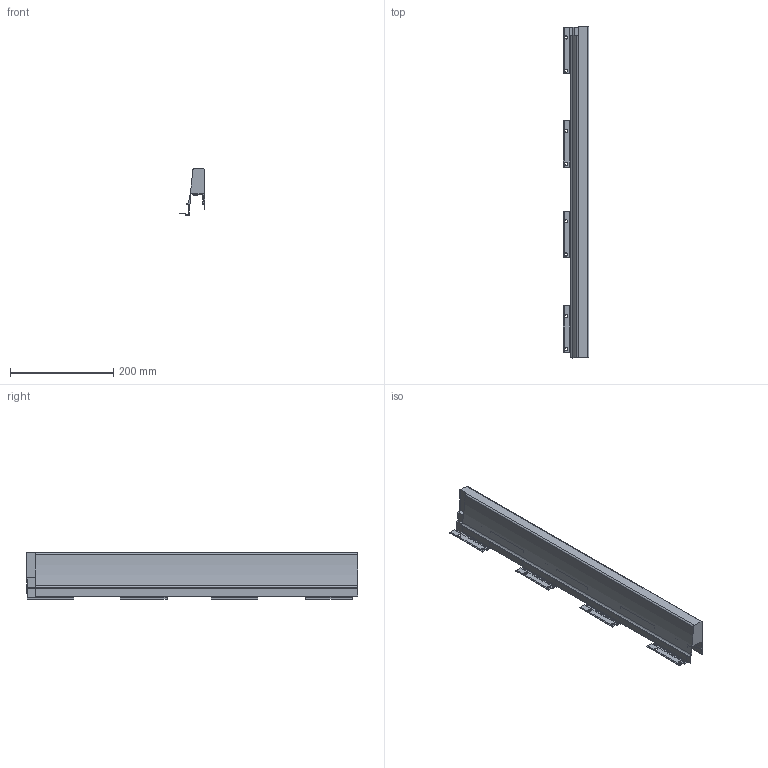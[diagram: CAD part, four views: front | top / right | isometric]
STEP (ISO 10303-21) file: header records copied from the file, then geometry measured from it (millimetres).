
FILE_DESCRIPTION (( 'STEP AP214' ), '1' );
FILE_NAME ('_XP Agantis Dekorseite H95 NL650 RE.step', '2010-07-08T06:05:31', ( 'grass' ), ( '' ), 'SwSTEP 2.0', 'SolidWorks 2010', '' );
FILE_SCHEMA (( 'AUTOMOTIVE_DESIGN' ));
Length unit declared in the file: millimetre
Products named in the file (1): _XP Agantis Dekorseite H95 NL650 RE
Bounding box: 50.01 x 641.5 x 89.5 mm (x, y, z)
Volume: 910811.6 mm3; surface area: 214323.9 mm2
Topology: 1 solids, 1 shells, 158 faces, 466 edges, 303 vertices
Faces by surface type: plane 127, cylinder 31
Entity records: 5271 total; most frequent: ORIENTED_EDGE 932, CARTESIAN_POINT 928, DIRECTION 847, EDGE_CURVE 466, LINE 403, VECTOR 403, VERTEX_POINT 303, AXIS2_PLACEMENT_3D 222
